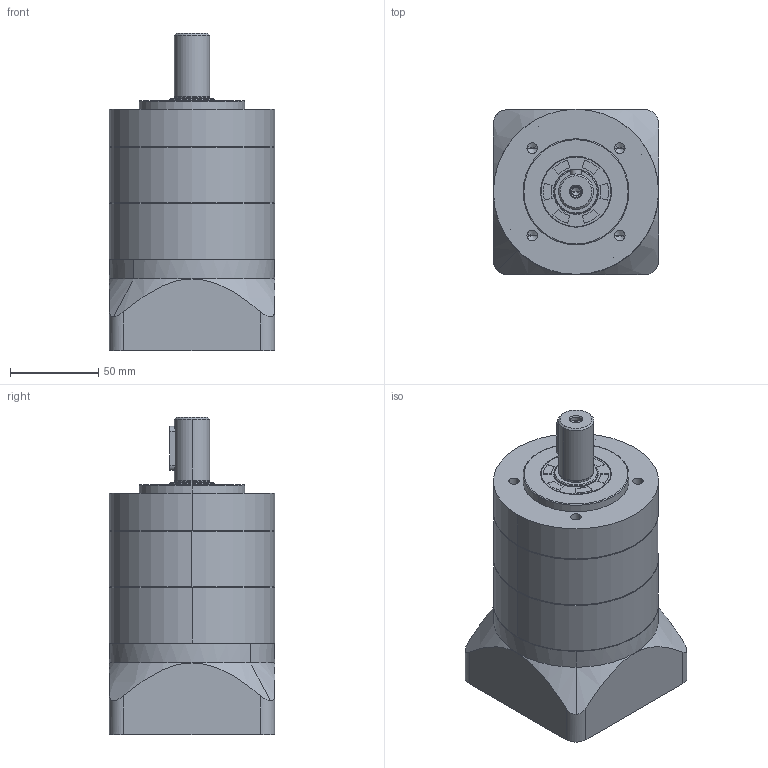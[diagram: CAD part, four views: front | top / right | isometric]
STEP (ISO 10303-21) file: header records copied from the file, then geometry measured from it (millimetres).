
FILE_DESCRIPTION (( 'STEP AP203' ), '1' );
FILE_NAME ('NB93-L2(14-60-98.7-M6).STEP', '2022-03-12T17:12:45', ( '' ), ( '' ), 'SwSTEP 2.0', 'SolidWorks 2016', '' );
FILE_SCHEMA (( 'CONFIG_CONTROL_DESIGN' ));
Length unit declared in the file: millimetre
Products named in the file (9): NB93-(60x5-70-M6); SN93; 90-(o19-14x26); SN90-25x40x5; SN90-48x27x15-M6; SN93-(20x37-6x25); SN90-(19); NB93-L2(14-60-98.7-M6); SN93-(60-98.7-M6)
Assembly tree (9 placements, depth 2):
  NB93-L2(14-60-98.7-M6)
    NB93-(60x5-70-M6)
    SN90-25x40x5
    SN93-(20x37-6x25)
    SN93  x2
    SN93-(60-98.7-M6)
    SN90-(19)
    90-(o19-14x26)
    SN90-48x27x15-M6
Bounding box: 93.5 x 93.5 x 179.5 mm (x, y, z)
Volume: 950684.1 mm3; surface area: 155597.6 mm2
Topology: 11 solids, 11 shells, 438 faces, 1106 edges, 696 vertices
Faces by surface type: cylinder 220, plane 113, cone 67, bspline 32, torus 6
Entity records: 29641 total; most frequent: CARTESIAN_POINT 19094, ORIENTED_EDGE 2084, DIRECTION 1935, EDGE_CURVE 1042, AXIS2_PLACEMENT_3D 754, VERTEX_POINT 672, EDGE_LOOP 482, VECTOR 427
